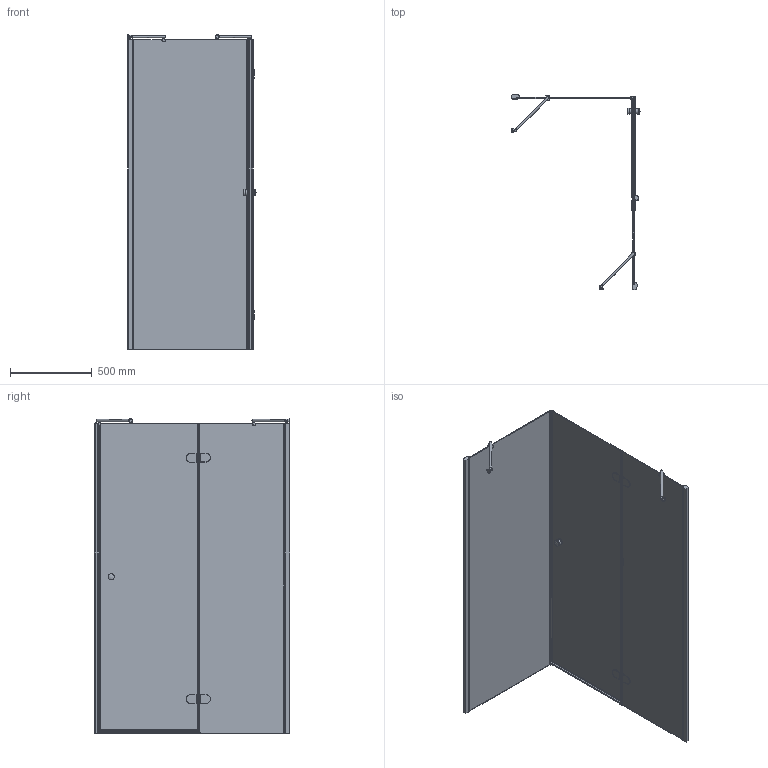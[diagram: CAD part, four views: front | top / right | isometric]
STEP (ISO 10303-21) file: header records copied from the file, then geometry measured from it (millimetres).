
FILE_DESCRIPTION(/* description */ (''),/* implementation_level */ '2;1');
FILE_NAME(/* name */ 'E:\Работа\Сергей\Душевые кабинки\! Работа\777\LUX RECTAN GK-103\LUX RECTAN GK-103 левая модель\LUX RECTAN GK-103 ЛЕВАЯ-3D.stp',/* time_stamp */ '2018-04-21T10:00:51+03:00',/* author */ ('PC'),/* organization */ (''),/* preprocessor_version */ 'ST-DEVELOPER v15.2',/* originating_system */ 'Autodesk Inventor 2014',/* authorisation */ '');
FILE_SCHEMA (('AUTOMOTIVE_DESIGN { 1 0 10303 214 3 1 1 }'));
Length unit declared in the file: millimetre
Products named in the file (1): LUX RECTAN GK-103 ЛЕВАЯ-3D
Bounding box: 787 x 1198.62 x 1931.5 mm (x, y, z)
Volume: 25554760.7 mm3; surface area: 7901571.2 mm2
Topology: 13 solids, 15 shells, 588 faces, 1618 edges, 1061 vertices
Faces by surface type: plane 376, cylinder 185, torus 15, sphere 6, bspline 6
Full cylindrical faces by diameter (mm): 15 x2, 20 x4, 26 x2, 38 x4
Entity records: 19554 total; most frequent: CARTESIAN_POINT 3868, ORIENTED_EDGE 3168, DIRECTION 3106, EDGE_CURVE 1584, LINE 1124, VECTOR 1124, VERTEX_POINT 1047, AXIS2_PLACEMENT_3D 991
